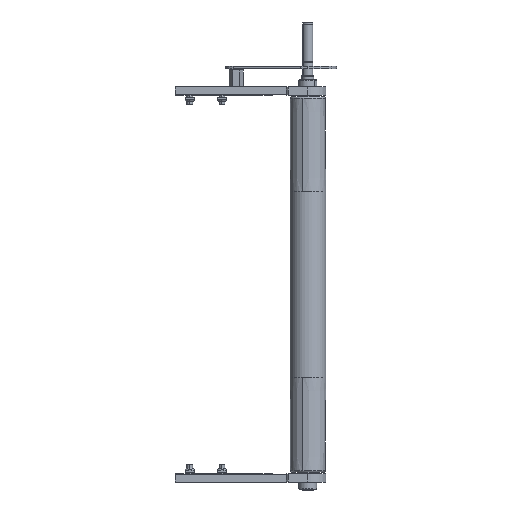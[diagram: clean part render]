
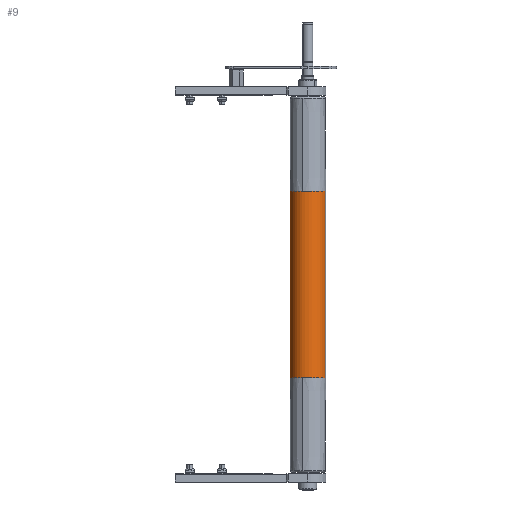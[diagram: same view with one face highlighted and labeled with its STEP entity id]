
A CAD part, front view. The second image highlights one B-rep face of the part: STEP entity #9.
In plain terms, the highlighted cylindrical face has radius 25 mm (diameter 50 mm), a partial arc.
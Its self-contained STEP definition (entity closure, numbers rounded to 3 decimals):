
#9 = ADVANCED_FACE ( 'NONE', ( #7213 ), #5045, .T. ) ;
#10 = AXIS2_PLACEMENT_3D ( 'NONE', #11924, #4975, #14264 ) ;
#320 = VERTEX_POINT ( 'NONE', #13394 ) ;
#410 = VERTEX_POINT ( 'NONE', #838 ) ;
#485 = EDGE_CURVE ( 'NONE', #6013, #13479, #11250, .T. ) ;
#535 = ORIENTED_EDGE ( 'NONE', *, *, #5366, .F. ) ;
#686 = DIRECTION ( 'NONE',  ( -1., 0., 0. ) ) ;
#838 = CARTESIAN_POINT ( 'NONE',  ( 130., 0., 25. ) ) ;
#1625 = DIRECTION ( 'NONE',  ( -1., 0., 0. ) ) ;
#1864 = EDGE_CURVE ( 'NONE', #320, #6013, #2172, .T. ) ;
#1940 = DIRECTION ( 'NONE',  ( 0., -1., 0. ) ) ;
#2172 = CIRCLE ( 'NONE', #10089, 25. ) ;
#2400 = VERTEX_POINT ( 'NONE', #8861 ) ;
#2624 = LINE ( 'NONE', #10997, #3728 ) ;
#2866 = DIRECTION ( 'NONE',  ( -1., 0., 0. ) ) ;
#3110 = DIRECTION ( 'NONE',  ( 0., -1., 0. ) ) ;
#3255 = CARTESIAN_POINT ( 'NONE',  ( -130., 25., 0. ) ) ;
#3337 = DIRECTION ( 'NONE',  ( 0., -1., 0. ) ) ;
#3507 = AXIS2_PLACEMENT_3D ( 'NONE', #5319, #9977, #3110 ) ;
#3728 = VECTOR ( 'NONE', #1625, 1000. ) ;
#3808 = CARTESIAN_POINT ( 'NONE',  ( -130., 0., 0. ) ) ;
#3902 = CIRCLE ( 'NONE', #3507, 25. ) ;
#4374 = VERTEX_POINT ( 'NONE', #3255 ) ;
#4448 = CIRCLE ( 'NONE', #6571, 25. ) ;
#4669 = DIRECTION ( 'NONE',  ( -1., 0., 0. ) ) ;
#4914 = DIRECTION ( 'NONE',  ( 0., -1., 0. ) ) ;
#4975 = DIRECTION ( 'NONE',  ( -1., 0., 0. ) ) ;
#5045 = CYLINDRICAL_SURFACE ( 'NONE', #10, 25. ) ;
#5101 = VECTOR ( 'NONE', #4669, 1000. ) ;
#5319 = CARTESIAN_POINT ( 'NONE',  ( 130., 0., 0. ) ) ;
#5366 = EDGE_CURVE ( 'NONE', #2400, #4374, #14061, .T. ) ;
#5621 = ORIENTED_EDGE ( 'NONE', *, *, #9215, .T. ) ;
#6013 = VERTEX_POINT ( 'NONE', #6079 ) ;
#6079 = CARTESIAN_POINT ( 'NONE',  ( 130., 0., -25. ) ) ;
#6571 = AXIS2_PLACEMENT_3D ( 'NONE', #3808, #10524, #4914 ) ;
#7213 = FACE_OUTER_BOUND ( 'NONE', #9557, .T. ) ;
#7607 = CARTESIAN_POINT ( 'NONE',  ( 130., 0., 0. ) ) ;
#8621 = EDGE_CURVE ( 'NONE', #4374, #13479, #4448, .T. ) ;
#8625 = CARTESIAN_POINT ( 'NONE',  ( -130., 0., 0. ) ) ;
#8861 = CARTESIAN_POINT ( 'NONE',  ( -130., 0., 25. ) ) ;
#9151 = CARTESIAN_POINT ( 'NONE',  ( 260., 0., -25. ) ) ;
#9215 = EDGE_CURVE ( 'NONE', #410, #320, #3902, .T. ) ;
#9284 = ORIENTED_EDGE ( 'NONE', *, *, #1864, .T. ) ;
#9557 = EDGE_LOOP ( 'NONE', ( #5621, #9284, #13238, #11039, #535, #14007 ) ) ;
#9977 = DIRECTION ( 'NONE',  ( -1., 0., 0. ) ) ;
#10089 = AXIS2_PLACEMENT_3D ( 'NONE', #7607, #686, #3337 ) ;
#10284 = CARTESIAN_POINT ( 'NONE',  ( -130., 0., -25. ) ) ;
#10524 = DIRECTION ( 'NONE',  ( -1., 0., 0. ) ) ;
#10997 = CARTESIAN_POINT ( 'NONE',  ( 260., 0., 25. ) ) ;
#11039 = ORIENTED_EDGE ( 'NONE', *, *, #8621, .F. ) ;
#11250 = LINE ( 'NONE', #9151, #5101 ) ;
#11924 = CARTESIAN_POINT ( 'NONE',  ( 260., 0., 0. ) ) ;
#13161 = EDGE_CURVE ( 'NONE', #410, #2400, #2624, .T. ) ;
#13238 = ORIENTED_EDGE ( 'NONE', *, *, #485, .T. ) ;
#13394 = CARTESIAN_POINT ( 'NONE',  ( 130., 25., 0. ) ) ;
#13479 = VERTEX_POINT ( 'NONE', #10284 ) ;
#14007 = ORIENTED_EDGE ( 'NONE', *, *, #13161, .F. ) ;
#14061 = CIRCLE ( 'NONE', #14654, 25. ) ;
#14264 = DIRECTION ( 'NONE',  ( 0., 0., 1. ) ) ;
#14654 = AXIS2_PLACEMENT_3D ( 'NONE', #8625, #2866, #1940 ) ;
